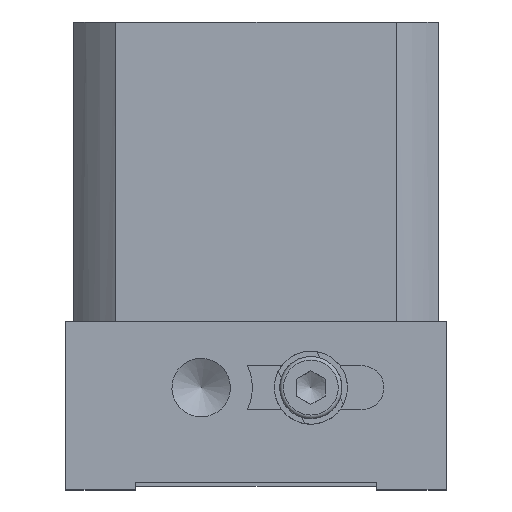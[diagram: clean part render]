
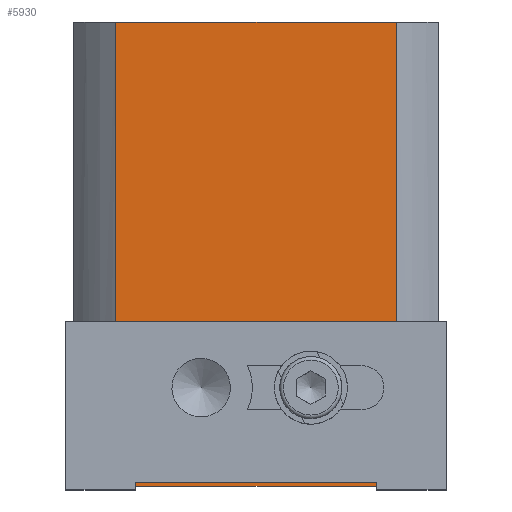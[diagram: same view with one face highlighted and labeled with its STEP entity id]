
A CAD part, left-side view. The second image highlights one B-rep face of the part: STEP entity #5930.
In plain terms, the highlighted planar face has unit normal (-1, 0, 0).
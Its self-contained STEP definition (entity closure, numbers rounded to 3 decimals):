
#1930=CARTESIAN_POINT('',(-25.,32.5,-44.0));
#1931=VERTEX_POINT('',#1930);
#1932=CARTESIAN_POINT('',(-25.,32.5,-50.0));
#1933=DIRECTION('',(1.0,0.0,0.0));
#1934=DIRECTION('',(0.0,0.0,-1.0));
#1935=AXIS2_PLACEMENT_3D('',#1932,#1933,#1934);
#1936=CIRCLE('',#1935,6.);
#1937=EDGE_CURVE('',#1931,#1931,#1936,.T.);
#2212=CARTESIAN_POINT('',(-25.,13.03,-45.998));
#2213=VERTEX_POINT('',#2212);
#2214=CARTESIAN_POINT('',(-25.,17.5,-50.0));
#2215=DIRECTION('',(1.0,0.0,0.0));
#2216=DIRECTION('',(0.0,0.0,-1.0));
#2217=AXIS2_PLACEMENT_3D('',#2214,#2215,#2216);
#2218=CIRCLE('',#2217,6.);
#2219=EDGE_CURVE('',#2213,#2213,#2218,.T.);
#4346=CARTESIAN_POINT('',(-25.,5.836,-63.5));
#4347=VERTEX_POINT('',#4346);
#4355=CARTESIAN_POINT('',(-25.,44.164,-63.5));
#4356=VERTEX_POINT('',#4355);
#4357=CARTESIAN_POINT('',(-25.,44.164,-63.5));
#4358=DIRECTION('',(0.0,-1.0,0.0));
#4359=VECTOR('',#4358,38.328);
#4360=LINE('',#4357,#4359);
#4361=EDGE_CURVE('',#4356,#4347,#4360,.T.);
#4987=CARTESIAN_POINT('',(-25.,44.164,0.0));
#4988=VERTEX_POINT('',#4987);
#4996=CARTESIAN_POINT('',(-25.,5.836,0.0));
#4997=VERTEX_POINT('',#4996);
#4998=CARTESIAN_POINT('',(-25.,44.164,0.0));
#4999=DIRECTION('',(0.0,-1.0,0.0));
#5000=VECTOR('',#4999,38.328);
#5001=LINE('',#4998,#5000);
#5002=EDGE_CURVE('',#4988,#4997,#5001,.T.);
#5830=CARTESIAN_POINT('',(-25.,5.836,0.0));
#5831=DIRECTION('',(0.0,0.0,-1.0));
#5832=VECTOR('',#5831,63.5);
#5833=LINE('',#5830,#5832);
#5834=EDGE_CURVE('',#4997,#4347,#5833,.T.);
#5900=CARTESIAN_POINT('',(-25.,44.164,0.0));
#5901=DIRECTION('',(0.0,0.0,-1.0));
#5902=VECTOR('',#5901,63.5);
#5903=LINE('',#5900,#5902);
#5904=EDGE_CURVE('',#4988,#4356,#5903,.T.);
#5913=CARTESIAN_POINT('',(-25.,44.164,0.0));
#5914=DIRECTION('',(-1.0,0.0,0.0));
#5915=DIRECTION('',(0.0,0.0,1.0));
#5916=AXIS2_PLACEMENT_3D('',#5913,#5914,#5915);
#5917=PLANE('',#5916);
#5918=ORIENTED_EDGE('',*,*,#5834,.F.);
#5919=ORIENTED_EDGE('',*,*,#5002,.F.);
#5920=ORIENTED_EDGE('',*,*,#5904,.T.);
#5921=ORIENTED_EDGE('',*,*,#4361,.T.);
#5922=EDGE_LOOP('',(#5918,#5919,#5920,#5921));
#5923=FACE_OUTER_BOUND('',#5922,.T.);
#5924=ORIENTED_EDGE('',*,*,#1937,.T.);
#5925=EDGE_LOOP('',(#5924));
#5926=FACE_BOUND('',#5925,.T.);
#5927=ORIENTED_EDGE('',*,*,#2219,.T.);
#5928=EDGE_LOOP('',(#5927));
#5929=FACE_BOUND('',#5928,.T.);
#5930=ADVANCED_FACE('',(#5923,#5926,#5929),#5917,.T.);
